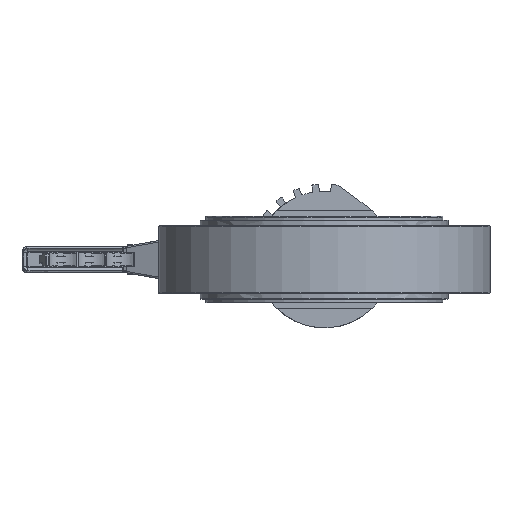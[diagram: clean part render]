
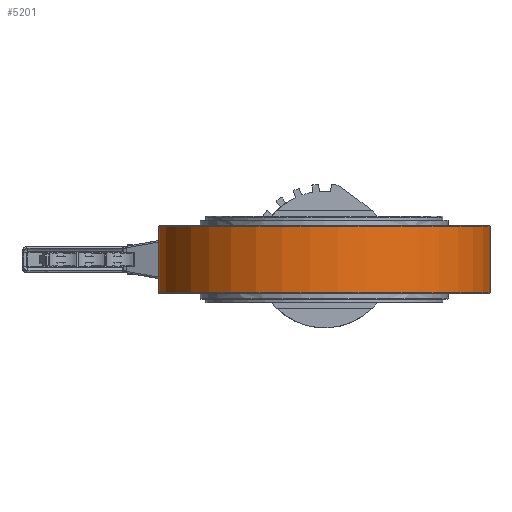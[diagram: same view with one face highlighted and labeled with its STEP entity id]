
A CAD part, front view. The second image highlights one B-rep face of the part: STEP entity #5201.
In plain terms, the highlighted cylindrical face has radius 170 mm (diameter 340 mm), a partial arc.
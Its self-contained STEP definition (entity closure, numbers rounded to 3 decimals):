
#5201=ADVANCED_FACE('',(#20931),#20933,.T.);
#20931=FACE_BOUND('',#20932,.T.);
#20932=EDGE_LOOP('',(#29623,#29624,#29625,#29626));
#20933=CYLINDRICAL_SURFACE('',#20934,170.);
#20934=AXIS2_PLACEMENT_3D('',#20935,#20936,#20937);
#20935=CARTESIAN_POINT('',(0.,0.,0.));
#20936=DIRECTION('',(0.,0.,1.));
#20937=DIRECTION('',(0.,-1.,0.));
#29623=ORIENTED_EDGE('',*,*,#33196,.F.);
#29624=ORIENTED_EDGE('',*,*,#32925,.F.);
#29625=ORIENTED_EDGE('',*,*,#32844,.F.);
#29626=ORIENTED_EDGE('',*,*,#33195,.F.);
#32844=EDGE_CURVE('',#36167,#36170,#36171,.T.);
#32925=EDGE_CURVE('',#36170,#36300,#36302,.T.);
#33195=EDGE_CURVE('',#36755,#36167,#36757,.T.);
#33196=EDGE_CURVE('',#36300,#36755,#36758,.T.);
#36167=VERTEX_POINT('',#53562);
#36170=VERTEX_POINT('',#53571);
#36171=CIRCLE('',#53572,170.);
#36300=VERTEX_POINT('',#55174);
#36302=LINE('',#55179,#55180);
#36755=VERTEX_POINT('',#59913);
#36757=LINE('',#59918,#59919);
#36758=CIRCLE('',#59921,170.);
#53562=CARTESIAN_POINT('',(106.138,132.796,-34.));
#53571=CARTESIAN_POINT('',(-106.138,132.796,-34.));
#53572=AXIS2_PLACEMENT_3D('',#53573,#53574,#53575);
#53573=CARTESIAN_POINT('',(0.,0.,-34.));
#53574=DIRECTION('',(0.,0.,-1.));
#53575=DIRECTION('',(0.624,0.781,0.));
#55174=CARTESIAN_POINT('',(-106.138,132.796,34.));
#55179=CARTESIAN_POINT('',(-106.138,132.796,-34.));
#55180=VECTOR('',#55181,1.);
#55181=DIRECTION('',(0.,0.,1.));
#59913=CARTESIAN_POINT('',(106.138,132.796,34.));
#59918=CARTESIAN_POINT('',(106.138,132.796,34.));
#59919=VECTOR('',#59920,1.);
#59920=DIRECTION('',(0.,0.,-1.));
#59921=AXIS2_PLACEMENT_3D('',#59922,#59923,#59924);
#59922=CARTESIAN_POINT('',(0.,0.,34.));
#59923=DIRECTION('',(0.,0.,1.));
#59924=DIRECTION('',(-0.624,0.781,0.));
